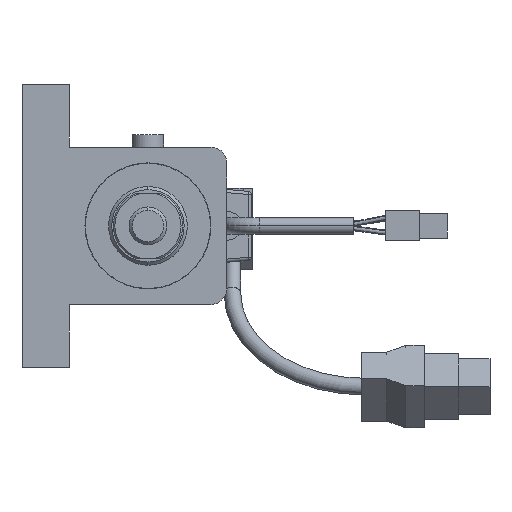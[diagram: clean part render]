
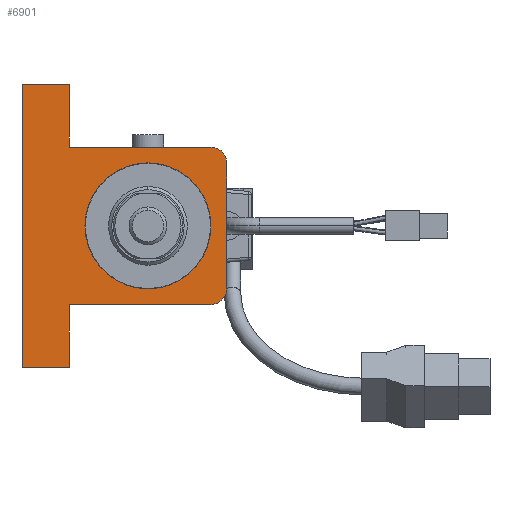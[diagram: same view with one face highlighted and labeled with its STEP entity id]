
A CAD part, front view. The second image highlights one B-rep face of the part: STEP entity #6901.
In plain terms, the highlighted planar face has unit normal (0, -1, 0) as drawn and (0, 0, 1) by its records, which use the part's own axes.
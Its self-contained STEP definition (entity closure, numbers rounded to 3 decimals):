
#13 = VECTOR ( 'NONE', #16218, 1000. ) ;
#72 = DIRECTION ( 'NONE',  ( -1., 0., 0. ) ) ;
#150 = DIRECTION ( 'NONE',  ( 1., 0., 0. ) ) ;
#208 = DIRECTION ( 'NONE',  ( 0., 0., 1. ) ) ;
#388 = CARTESIAN_POINT ( 'NONE',  ( 45., -40., 182. ) ) ;
#556 = EDGE_CURVE ( 'NONE', #2150, #16232, #14116, .T. ) ;
#733 = ORIENTED_EDGE ( 'NONE', *, *, #9733, .T. ) ;
#1161 = ORIENTED_EDGE ( 'NONE', *, *, #1970, .T. ) ;
#1970 = EDGE_CURVE ( 'NONE', #22777, #5001, #20625, .T. ) ;
#2036 = VECTOR ( 'NONE', #14575, 1000. ) ;
#2150 = VERTEX_POINT ( 'NONE', #8096 ) ;
#2439 = CARTESIAN_POINT ( 'NONE',  ( -25., 20., 182. ) ) ;
#2761 = CARTESIAN_POINT ( 'NONE',  ( 45., -40., 182. ) ) ;
#3066 = ORIENTED_EDGE ( 'NONE', *, *, #9638, .T. ) ;
#3149 = VERTEX_POINT ( 'NONE', #9991 ) ;
#3449 = AXIS2_PLACEMENT_3D ( 'NONE', #5993, #9533, #11361 ) ;
#3537 = EDGE_CURVE ( 'NONE', #11226, #4836, #19472, .T. ) ;
#4049 = CARTESIAN_POINT ( 'NONE',  ( 20., 20., 182. ) ) ;
#4641 = ORIENTED_EDGE ( 'NONE', *, *, #19502, .T. ) ;
#4737 = ORIENTED_EDGE ( 'NONE', *, *, #6769, .F. ) ;
#4836 = VERTEX_POINT ( 'NONE', #10350 ) ;
#5001 = VERTEX_POINT ( 'NONE', #5450 ) ;
#5045 = VERTEX_POINT ( 'NONE', #16037 ) ;
#5450 = CARTESIAN_POINT ( 'NONE',  ( 45., -25., 182. ) ) ;
#5635 = CARTESIAN_POINT ( 'NONE',  ( -20., 0., 182. ) ) ;
#5745 = DIRECTION ( 'NONE',  ( 0., 1., 0. ) ) ;
#5859 = VERTEX_POINT ( 'NONE', #12146 ) ;
#5993 = CARTESIAN_POINT ( 'NONE',  ( -20., 20., 182. ) ) ;
#6414 = AXIS2_PLACEMENT_3D ( 'NONE', #8511, #22573, #12270 ) ;
#6769 = EDGE_CURVE ( 'NONE', #21255, #20996, #7127, .T. ) ;
#6892 = DIRECTION ( 'NONE',  ( 0., 0., 1. ) ) ;
#6901 = ADVANCED_FACE ( 'NONE', ( #8205, #11514 ), #20191, .T. ) ;
#6922 = DIRECTION ( 'NONE',  ( 0., 0., 1. ) ) ;
#7127 = CIRCLE ( 'NONE', #22281, 20. ) ;
#7430 = CARTESIAN_POINT ( 'NONE',  ( 25., 20., 182. ) ) ;
#7617 = EDGE_CURVE ( 'NONE', #16232, #20331, #13712, .T. ) ;
#7713 = ORIENTED_EDGE ( 'NONE', *, *, #10545, .F. ) ;
#7913 = CARTESIAN_POINT ( 'NONE',  ( 20., 25., 182. ) ) ;
#8096 = CARTESIAN_POINT ( 'NONE',  ( 20., 25., 182. ) ) ;
#8205 = FACE_BOUND ( 'NONE', #20222, .T. ) ;
#8222 = DIRECTION ( 'NONE',  ( -1., 0., 0. ) ) ;
#8333 = CARTESIAN_POINT ( 'NONE',  ( -25., 20., 182. ) ) ;
#8511 = CARTESIAN_POINT ( 'NONE',  ( -20., 20., 182. ) ) ;
#8650 = EDGE_CURVE ( 'NONE', #20331, #3149, #12812, .T. ) ;
#8855 = CARTESIAN_POINT ( 'NONE',  ( 45., -25., 182. ) ) ;
#9367 = DIRECTION ( 'NONE',  ( -1., 0., 0. ) ) ;
#9432 = CARTESIAN_POINT ( 'NONE',  ( -25., -25., 182. ) ) ;
#9533 = DIRECTION ( 'NONE',  ( 0., 0., 1. ) ) ;
#9638 = EDGE_CURVE ( 'NONE', #5045, #5859, #11128, .T. ) ;
#9733 = EDGE_CURVE ( 'NONE', #3149, #5045, #21301, .T. ) ;
#9991 = CARTESIAN_POINT ( 'NONE',  ( -25., -25., 182. ) ) ;
#10283 = AXIS2_PLACEMENT_3D ( 'NONE', #20792, #6892, #18940 ) ;
#10286 = CIRCLE ( 'NONE', #10283, 20. ) ;
#10350 = CARTESIAN_POINT ( 'NONE',  ( 25., 20., 182. ) ) ;
#10545 = EDGE_CURVE ( 'NONE', #20996, #21255, #10286, .T. ) ;
#11128 = LINE ( 'NONE', #16115, #16904 ) ;
#11135 = DIRECTION ( 'NONE',  ( 0., -1., 0. ) ) ;
#11226 = VERTEX_POINT ( 'NONE', #12209 ) ;
#11361 = DIRECTION ( 'NONE',  ( 1., 0., 0. ) ) ;
#11514 = FACE_OUTER_BOUND ( 'NONE', #21744, .T. ) ;
#11998 = VECTOR ( 'NONE', #11135, 1000. ) ;
#12146 = CARTESIAN_POINT ( 'NONE',  ( -45., -40., 182. ) ) ;
#12209 = CARTESIAN_POINT ( 'NONE',  ( 25., -25., 182. ) ) ;
#12270 = DIRECTION ( 'NONE',  ( 1., 0., 0. ) ) ;
#12432 = EDGE_CURVE ( 'NONE', #5001, #11226, #22622, .T. ) ;
#12728 = VECTOR ( 'NONE', #8222, 1000. ) ;
#12812 = LINE ( 'NONE', #2439, #11998 ) ;
#13613 = LINE ( 'NONE', #19410, #22392 ) ;
#13712 = CIRCLE ( 'NONE', #6414, 5. ) ;
#14116 = LINE ( 'NONE', #7913, #12728 ) ;
#14199 = DIRECTION ( 'NONE',  ( 1., 0., 0. ) ) ;
#14575 = DIRECTION ( 'NONE',  ( -1., 0., 0. ) ) ;
#15002 = EDGE_CURVE ( 'NONE', #5859, #22777, #13613, .T. ) ;
#15812 = AXIS2_PLACEMENT_3D ( 'NONE', #4049, #208, #9367 ) ;
#16037 = CARTESIAN_POINT ( 'NONE',  ( -45., -25., 182. ) ) ;
#16047 = DIRECTION ( 'NONE',  ( 0., -1., 0. ) ) ;
#16115 = CARTESIAN_POINT ( 'NONE',  ( -45., -25., 182. ) ) ;
#16218 = DIRECTION ( 'NONE',  ( 0., 1., 0. ) ) ;
#16232 = VERTEX_POINT ( 'NONE', #16236 ) ;
#16236 = CARTESIAN_POINT ( 'NONE',  ( -20., 25., 182. ) ) ;
#16276 = VECTOR ( 'NONE', #72, 1000. ) ;
#16904 = VECTOR ( 'NONE', #16047, 1000. ) ;
#17282 = ORIENTED_EDGE ( 'NONE', *, *, #7617, .T. ) ;
#17423 = ORIENTED_EDGE ( 'NONE', *, *, #12432, .T. ) ;
#17456 = CARTESIAN_POINT ( 'NONE',  ( 0., 0., 182. ) ) ;
#17557 = VECTOR ( 'NONE', #5745, 1000. ) ;
#18377 = CIRCLE ( 'NONE', #15812, 5. ) ;
#18828 = ORIENTED_EDGE ( 'NONE', *, *, #8650, .T. ) ;
#18940 = DIRECTION ( 'NONE',  ( 1., 0., 0. ) ) ;
#19410 = CARTESIAN_POINT ( 'NONE',  ( -45., -40., 182. ) ) ;
#19472 = LINE ( 'NONE', #7430, #17557 ) ;
#19502 = EDGE_CURVE ( 'NONE', #4836, #2150, #18377, .T. ) ;
#20191 = PLANE ( 'NONE',  #3449 ) ;
#20222 = EDGE_LOOP ( 'NONE', ( #4737, #7713 ) ) ;
#20331 = VERTEX_POINT ( 'NONE', #8333 ) ;
#20589 = ORIENTED_EDGE ( 'NONE', *, *, #556, .T. ) ;
#20625 = LINE ( 'NONE', #388, #13 ) ;
#20756 = CARTESIAN_POINT ( 'NONE',  ( 20., 0., 182. ) ) ;
#20792 = CARTESIAN_POINT ( 'NONE',  ( 0., 0., 182. ) ) ;
#20996 = VERTEX_POINT ( 'NONE', #20756 ) ;
#21255 = VERTEX_POINT ( 'NONE', #5635 ) ;
#21301 = LINE ( 'NONE', #9432, #2036 ) ;
#21419 = ORIENTED_EDGE ( 'NONE', *, *, #3537, .T. ) ;
#21744 = EDGE_LOOP ( 'NONE', ( #17423, #21419, #4641, #20589, #17282, #18828, #733, #3066, #22630, #1161 ) ) ;
#22281 = AXIS2_PLACEMENT_3D ( 'NONE', #17456, #6922, #150 ) ;
#22392 = VECTOR ( 'NONE', #14199, 1000. ) ;
#22573 = DIRECTION ( 'NONE',  ( 0., 0., 1. ) ) ;
#22622 = LINE ( 'NONE', #8855, #16276 ) ;
#22630 = ORIENTED_EDGE ( 'NONE', *, *, #15002, .T. ) ;
#22777 = VERTEX_POINT ( 'NONE', #2761 ) ;
